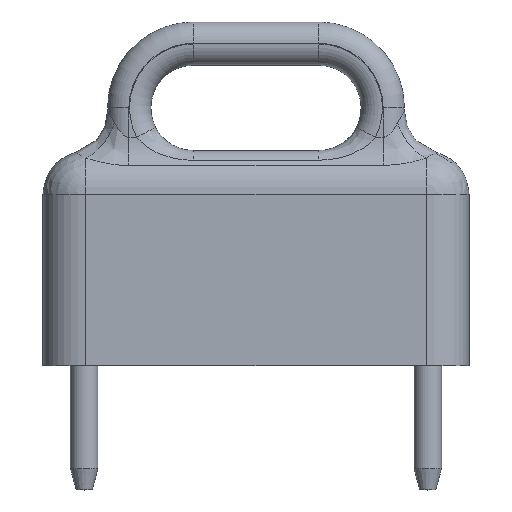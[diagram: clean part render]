
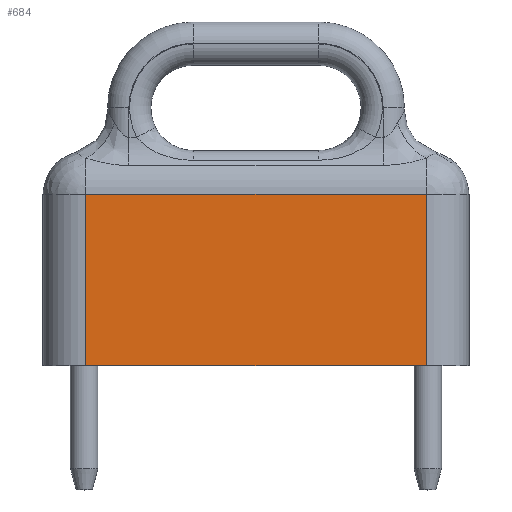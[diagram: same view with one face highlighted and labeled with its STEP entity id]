
A CAD part, top view. The second image highlights one B-rep face of the part: STEP entity #684.
In plain terms, the highlighted planar face has unit normal (0, 0, 1).
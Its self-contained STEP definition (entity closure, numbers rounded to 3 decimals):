
#49=LINE($,#975,#77);
#69=LINE($,#1458,#97);
#72=LINE($,#1480,#100);
#74=LINE($,#1483,#102);
#77=VECTOR($,#799,12.573);
#97=VECTOR($,#903,12.573);
#100=VECTOR($,#938,6.337);
#102=VECTOR($,#942,6.337);
#110=PLANE($,#763);
#159=FACE_OUTER_BOUND($,#207,.T.);
#207=EDGE_LOOP($,(#574,#575,#576,#577));
#261=VERTEX_POINT($,#969);
#263=VERTEX_POINT($,#973);
#305=VERTEX_POINT($,#1455);
#306=VERTEX_POINT($,#1457);
#319=EDGE_CURVE($,#263,#261,#49,.T.);
#387=EDGE_CURVE($,#305,#306,#69,.T.);
#398=EDGE_CURVE($,#306,#263,#72,.T.);
#400=EDGE_CURVE($,#261,#305,#74,.T.);
#574=ORIENTED_EDGE($,*,*,#387,.F.);
#575=ORIENTED_EDGE($,*,*,#400,.F.);
#576=ORIENTED_EDGE($,*,*,#319,.F.);
#577=ORIENTED_EDGE($,*,*,#398,.F.);
#684=ADVANCED_FACE($,(#159),#110,.T.);
#763=AXIS2_PLACEMENT_3D($,#1482,#940,#941);
#799=DIRECTION($,(-1.,0.,0.));
#903=DIRECTION($,(1.,0.,0.));
#938=DIRECTION($,(0.,-1.,0.));
#940=DIRECTION('center_axis',(0.,0.,1.));
#941=DIRECTION('ref_axis',(1.,0.,0.));
#942=DIRECTION($,(0.,1.,0.));
#969=CARTESIAN_POINT('',(-6.287,0.,1.588));
#973=CARTESIAN_POINT('',(6.287,0.,1.588));
#975=CARTESIAN_POINT($,(7.874,0.,1.588));
#1455=CARTESIAN_POINT('',(-6.287,6.337,1.588));
#1457=CARTESIAN_POINT('',(6.287,6.337,1.588));
#1458=CARTESIAN_POINT($,(-3.937,6.337,1.588));
#1480=CARTESIAN_POINT($,(6.287,5.944,1.588));
#1482=CARTESIAN_POINT('Origin',(0.,3.962,1.588));
#1483=CARTESIAN_POINT($,(-6.287,1.981,1.588));
